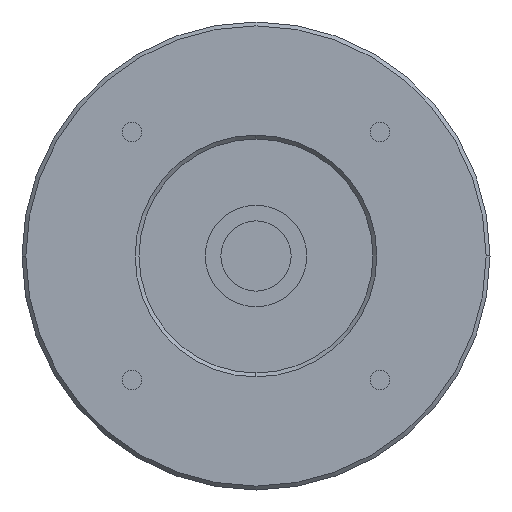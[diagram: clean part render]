
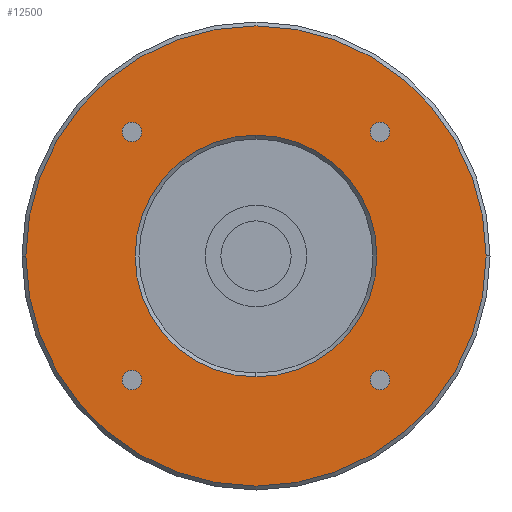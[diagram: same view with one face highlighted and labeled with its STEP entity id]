
A CAD part, left-side view. The second image highlights one B-rep face of the part: STEP entity #12500.
In plain terms, the highlighted planar face has unit normal (-1, 0, 0) as drawn and (0, 0, -1) by its records, which use the part's own axes.
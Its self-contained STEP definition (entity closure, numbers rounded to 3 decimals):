
#8750=CARTESIAN_POINT('',(0.,15.5,-35.5));
#8760=VERTEX_POINT('',#8750);
#8790=CARTESIAN_POINT('',(0.,0.,
-35.5));
#8800=DIRECTION('',(0.,0.,-1.));
#8810=DIRECTION('',(-1.,0.,0.));
#8820=AXIS2_PLACEMENT_3D('',#8790,#8800,#8810);
#8830=CIRCLE('',#8820,15.5);
#8840=CARTESIAN_POINT('',(-15.5,0.,-35.5));
#8850=VERTEX_POINT('',#8840);
#8860=EDGE_CURVE('',#8850,#8760,#8830,.T.);
#8880=CARTESIAN_POINT('',(0.,-15.5,-35.5));
#8890=VERTEX_POINT('',#8880);
#8900=EDGE_CURVE('',#8890,#8850,#8830,.T.);
#11350=CARTESIAN_POINT('',(-14.66,15.91,-35.5));
#11360=VERTEX_POINT('',#11350);
#11390=CARTESIAN_POINT('',(-15.91,15.91,-35.5));
#11400=DIRECTION('',(0.,0.,-1.));
#11410=DIRECTION('',(0.,-1.,0.));
#11420=AXIS2_PLACEMENT_3D('',#11390,#11400,#11410);
#11430=CIRCLE('',#11420,1.25);
#11440=CARTESIAN_POINT('',(-17.16,15.91,-35.5));
#11450=VERTEX_POINT('',#11440);
#11460=EDGE_CURVE('',#11450,#11360,#11430,.T.);
#11580=CARTESIAN_POINT('',(0.,0.,
-35.5));
#11590=DIRECTION('',(0.,0.,-1.));
#11600=DIRECTION('',(-1.,0.,0.));
#11610=AXIS2_PLACEMENT_3D('',#11580,#11590,#11600);
#11620=PLANE('',#11610);
#11630=CARTESIAN_POINT('',(-15.91,14.66,-35.5));
#11640=VERTEX_POINT('',#11630);
#11650=EDGE_CURVE('',#11640,#11450,#11430,.T.);
#11660=ORIENTED_EDGE('',*,*,#11650,.F.);
#11670=ORIENTED_EDGE('',*,*,#11460,.F.);
#11680=EDGE_CURVE('',#11360,#11640,#11430,.T.);
#11690=ORIENTED_EDGE('',*,*,#11680,.F.);
#11700=EDGE_LOOP('',(#11690,#11670,#11660));
#11710=FACE_BOUND('',#11700,.T.);
#11720=CARTESIAN_POINT('',(15.91,15.91,-35.5));
#11730=DIRECTION('',(0.,0.,-1.));
#11740=DIRECTION('',(0.,-1.,0.));
#11750=AXIS2_PLACEMENT_3D('',#11720,#11730,#11740);
#11760=CIRCLE('',#11750,1.25);
#11770=CARTESIAN_POINT('',(15.91,14.66,-35.5));
#11780=VERTEX_POINT('',#11770);
#11790=CARTESIAN_POINT('',(14.66,15.91,-35.5));
#11800=VERTEX_POINT('',#11790);
#11810=EDGE_CURVE('',#11780,#11800,#11760,.T.);
#11820=ORIENTED_EDGE('',*,*,#11810,.F.);
#11830=CARTESIAN_POINT('',(17.16,15.91,-35.5));
#11840=VERTEX_POINT('',#11830);
#11850=EDGE_CURVE('',#11800,#11840,#11760,.T.);
#11860=ORIENTED_EDGE('',*,*,#11850,.F.);
#11870=EDGE_CURVE('',#11840,#11780,#11760,.T.);
#11880=ORIENTED_EDGE('',*,*,#11870,.F.);
#11890=EDGE_LOOP('',(#11880,#11860,#11820));
#11900=FACE_BOUND('',#11890,.T.);
#11910=CARTESIAN_POINT('',(15.91,-15.91,-35.5));
#11920=DIRECTION('',(0.,0.,-1.));
#11930=DIRECTION('',(0.,-1.,0.));
#11940=AXIS2_PLACEMENT_3D('',#11910,#11920,#11930);
#11950=CIRCLE('',#11940,1.25);
#11960=CARTESIAN_POINT('',(15.91,-17.16,-35.5));
#11970=VERTEX_POINT('',#11960);
#11980=CARTESIAN_POINT('',(14.66,-15.91,-35.5));
#11990=VERTEX_POINT('',#11980);
#12000=EDGE_CURVE('',#11970,#11990,#11950,.T.);
#12010=ORIENTED_EDGE('',*,*,#12000,.F.);
#12020=CARTESIAN_POINT('',(17.16,-15.91,-35.5));
#12030=VERTEX_POINT('',#12020);
#12040=EDGE_CURVE('',#11990,#12030,#11950,.T.);
#12050=ORIENTED_EDGE('',*,*,#12040,.F.);
#12060=EDGE_CURVE('',#12030,#11970,#11950,.T.);
#12070=ORIENTED_EDGE('',*,*,#12060,.F.);
#12080=EDGE_LOOP('',(#12070,#12050,#12010));
#12090=FACE_BOUND('',#12080,.T.);
#12100=CARTESIAN_POINT('',(-15.91,-15.91,-35.5));
#12110=DIRECTION('',(0.,0.,-1.));
#12120=DIRECTION('',(0.,-1.,0.));
#12130=AXIS2_PLACEMENT_3D('',#12100,#12110,#12120);
#12140=CIRCLE('',#12130,1.25);
#12150=CARTESIAN_POINT('',(-15.91,-17.16,-35.5));
#12160=VERTEX_POINT('',#12150);
#12170=CARTESIAN_POINT('',(-17.16,-15.91,-35.5));
#12180=VERTEX_POINT('',#12170);
#12190=EDGE_CURVE('',#12160,#12180,#12140,.T.);
#12200=ORIENTED_EDGE('',*,*,#12190,.F.);
#12210=CARTESIAN_POINT('',(-14.66,-15.91,-35.5));
#12220=VERTEX_POINT('',#12210);
#12230=EDGE_CURVE('',#12180,#12220,#12140,.T.);
#12240=ORIENTED_EDGE('',*,*,#12230,.F.);
#12250=EDGE_CURVE('',#12220,#12160,#12140,.T.);
#12260=ORIENTED_EDGE('',*,*,#12250,.F.);
#12270=EDGE_LOOP('',(#12260,#12240,#12200));
#12280=FACE_BOUND('',#12270,.T.);
#12290=CARTESIAN_POINT('',(0.,0.,
-35.5));
#12300=DIRECTION('',(0.,0.,-1.));
#12310=DIRECTION('',(-1.,0.,0.));
#12320=AXIS2_PLACEMENT_3D('',#12290,#12300,#12310);
#12330=CIRCLE('',#12320,29.5);
#12340=CARTESIAN_POINT('',(-29.5,0.,-35.5));
#12350=VERTEX_POINT('',#12340);
#12360=CARTESIAN_POINT('',(29.5,0.,-35.5));
#12370=VERTEX_POINT('',#12360);
#12380=EDGE_CURVE('',#12350,#12370,#12330,.T.);
#12390=ORIENTED_EDGE('',*,*,#12380,.T.);
#12400=EDGE_CURVE('',#12370,#12350,#12330,.T.);
#12410=ORIENTED_EDGE('',*,*,#12400,.T.);
#12420=EDGE_LOOP('',(#12410,#12390));
#12430=FACE_OUTER_BOUND('',#12420,.T.);
#12440=ORIENTED_EDGE('',*,*,#8860,.F.);
#12450=EDGE_CURVE('',#8760,#8890,#8830,.T.);
#12460=ORIENTED_EDGE('',*,*,#12450,.F.);
#12470=ORIENTED_EDGE('',*,*,#8900,.F.);
#12480=EDGE_LOOP('',(#12470,#12460,#12440));
#12490=FACE_BOUND('',#12480,.T.);
#12500=ADVANCED_FACE('',(#11710,#11900,#12090,#12280,#12430,#12490),
#11620,.T.);
